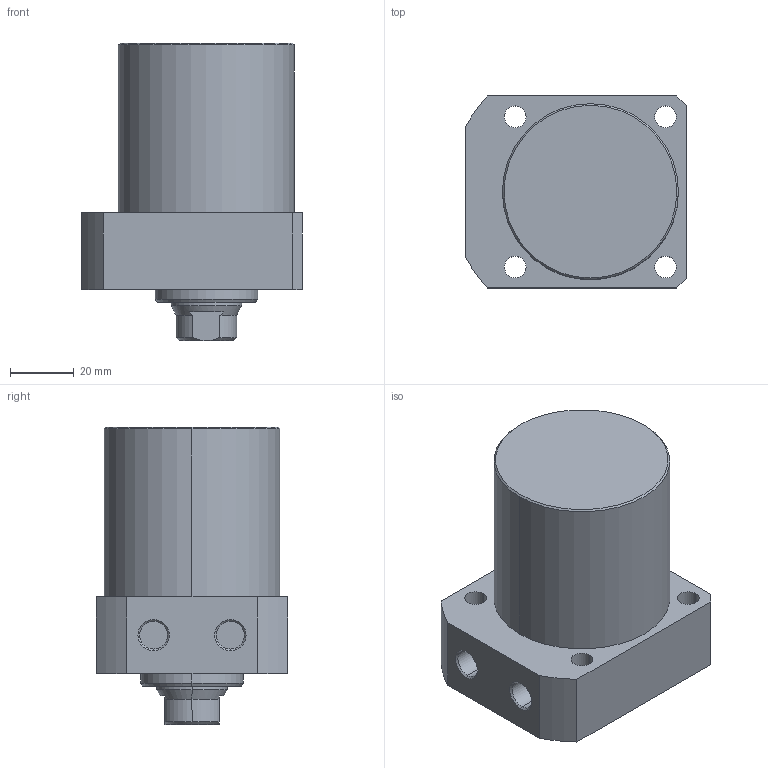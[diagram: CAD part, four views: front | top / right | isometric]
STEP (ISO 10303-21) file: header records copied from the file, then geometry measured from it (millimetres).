
FILE_DESCRIPTION (( 'STEP AP203' ), '1' );
FILE_NAME ('CLLR-055CA-040.STEP', '2019-12-19T07:25:55', ( '' ), ( '' ), 'SwSTEP 2.0', 'SolidWorks 2015', '' );
FILE_SCHEMA (( 'CONFIG_CONTROL_DESIGN' ));
Length unit declared in the file: millimetre
Products named in the file (1): CLLR-055CA-040
Bounding box: 69 x 60 x 93 mm (x, y, z)
Volume: 223555.8 mm3; surface area: 27339.8 mm2
Topology: 1 solids, 1 shells, 65 faces, 151 edges, 94 vertices
Faces by surface type: cylinder 29, plane 19, cone 17
Entity records: 1967 total; most frequent: CARTESIAN_POINT 349, DIRECTION 348, ORIENTED_EDGE 298, EDGE_CURVE 149, AXIS2_PLACEMENT_3D 141, VERTEX_POINT 94, EDGE_LOOP 81, CIRCLE 75
